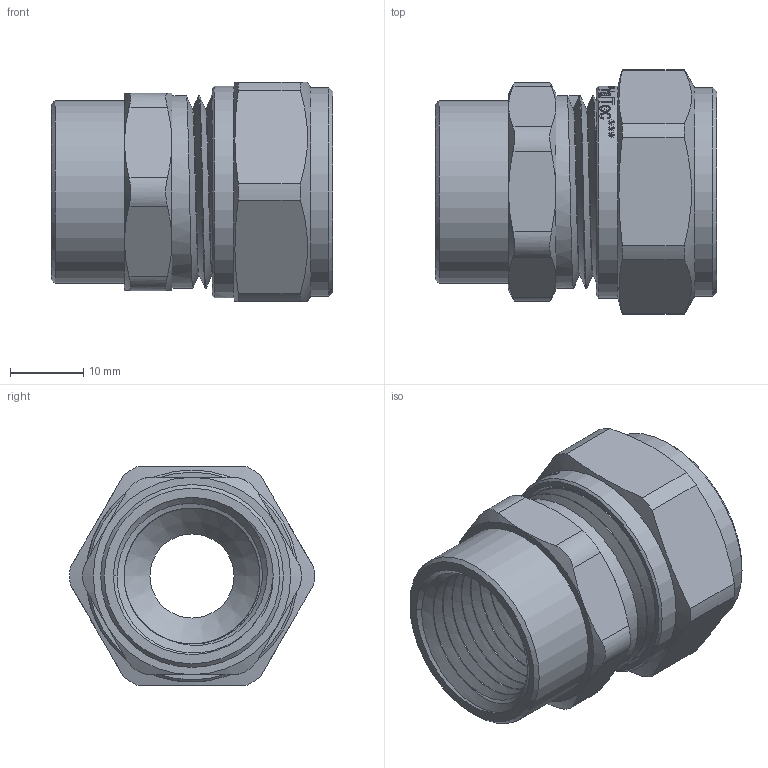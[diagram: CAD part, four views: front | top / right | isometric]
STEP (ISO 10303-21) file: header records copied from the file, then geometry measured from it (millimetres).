
FILE_DESCRIPTION(/* description */ (''),/* implementation_level */ '2;1');
FILE_NAME(/* name */ 'E:\Артём\00000\Работа удаленка\Обжимные фитинги\VTm.302.N.002004.stp',/* time_stamp */ '2020-06-09T10:01:09+03:00',/* author */ ('BeN_GaN'),/* organization */ (''),/* preprocessor_version */ 'ST-DEVELOPER v18',/* originating_system */ 'Autodesk Inventor 2020',/* authorisation */ '');
FILE_SCHEMA (('AUTOMOTIVE_DESIGN { 1 0 10303 214 3 1 1 }'));
Length unit declared in the file: millimetre
Products named in the file (1): VTm.302.N.002004
Bounding box: 38.48 x 33.43 x 30 mm (x, y, z)
Volume: 13224 mm3; surface area: 11706.2 mm2
Topology: 1 solids, 2 shells, 663 faces, 1858 edges, 1253 vertices
Faces by surface type: bspline 346, plane 170, cylinder 97, cone 27, torus 23
Full cylindrical faces by diameter (mm): 11.5 x1, 13.4 x2, 15.75 x4, 18.6 x7, 19.986 x4, 20.2 x1, 20.728 x5, 21 x1, 22.2 x8, 22.8 x2, 23.201 x1, 24.2 x1, 25 x1, 26.4 x3, 28.5 x1, 29 x1
Entity records: 29441 total; most frequent: CARTESIAN_POINT 14603, ORIENTED_EDGE 3716, DIRECTION 2001, EDGE_CURVE 1858, VERTEX_POINT 1253, B_SPLINE_CURVE_WITH_KNOTS 767, LINE 745, VECTOR 745
